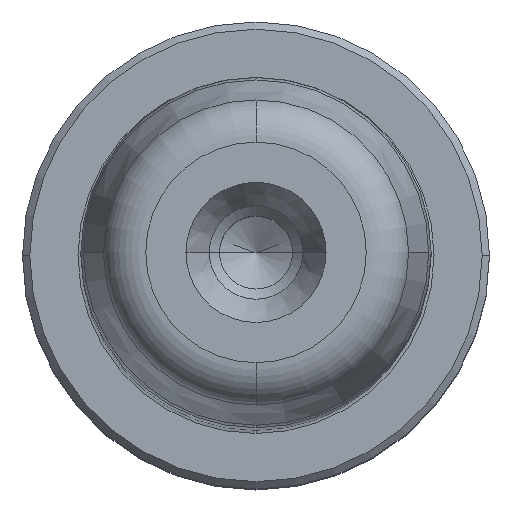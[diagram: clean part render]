
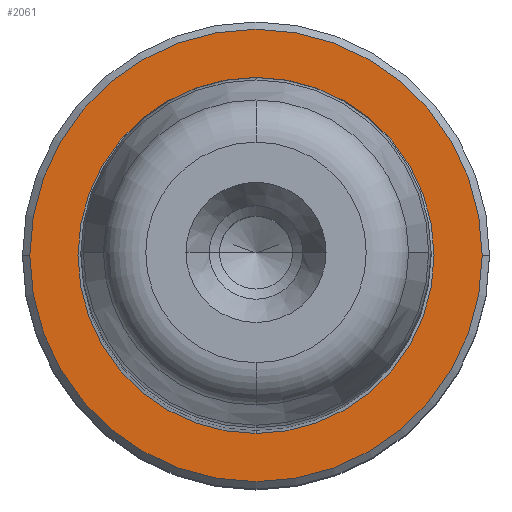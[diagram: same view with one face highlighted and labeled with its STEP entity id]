
A CAD part, top view. The second image highlights one B-rep face of the part: STEP entity #2061.
In plain terms, the highlighted planar face has unit normal (0, 0, 1).
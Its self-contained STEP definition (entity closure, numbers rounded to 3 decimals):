
#898=CARTESIAN_POINT('',(0.0,-12.2,5.));
#899=VERTEX_POINT('',#898);
#907=CARTESIAN_POINT('',(12.2,0.,5.0));
#908=VERTEX_POINT('',#907);
#909=CARTESIAN_POINT('',(0.0,0.,5.0));
#910=DIRECTION('',(0.0,0.0,1.0));
#911=DIRECTION('',(1.0,0.0,0.0));
#912=AXIS2_PLACEMENT_3D('',#909,#910,#911);
#913=CIRCLE('',#912,12.2);
#914=EDGE_CURVE('',#899,#908,#913,.T.);
#916=CARTESIAN_POINT('',(0.,12.2,5.));
#917=VERTEX_POINT('',#916);
#918=CARTESIAN_POINT('',(0.0,0.,5.0));
#919=DIRECTION('',(0.0,0.0,1.0));
#920=DIRECTION('',(1.0,0.0,0.0));
#921=AXIS2_PLACEMENT_3D('',#918,#919,#920);
#922=CIRCLE('',#921,12.2);
#923=EDGE_CURVE('',#908,#917,#922,.T.);
#950=CARTESIAN_POINT('',(15.5,0.,5.0));
#951=VERTEX_POINT('',#950);
#960=CARTESIAN_POINT('',(-15.5,0.,5.));
#961=VERTEX_POINT('',#960);
#962=CARTESIAN_POINT('',(0.0,0.,5.0));
#963=DIRECTION('',(0.0,0.0,1.0));
#964=DIRECTION('',(1.0,0.0,0.0));
#965=AXIS2_PLACEMENT_3D('',#962,#963,#964);
#966=CIRCLE('',#965,15.5);
#967=EDGE_CURVE('',#961,#951,#966,.T.);
#2031=CARTESIAN_POINT('',(0.0,0.,5.0));
#2032=DIRECTION('',(0.0,0.0,1.0));
#2033=DIRECTION('',(1.0,0.0,0.0));
#2034=AXIS2_PLACEMENT_3D('',#2031,#2032,#2033);
#2035=CIRCLE('',#2034,15.5);
#2036=EDGE_CURVE('',#951,#961,#2035,.T.);
#2041=CARTESIAN_POINT('',(13.85,0.,5.0));
#2042=DIRECTION('',(0.0,0.0,1.0));
#2043=DIRECTION('',(0.0,-1.0,0.0));
#2044=AXIS2_PLACEMENT_3D('',#2041,#2042,#2043);
#2045=PLANE('',#2044);
#2046=ORIENTED_EDGE('',*,*,#2036,.T.);
#2047=ORIENTED_EDGE('',*,*,#967,.T.);
#2048=EDGE_LOOP('',(#2046,#2047));
#2049=FACE_OUTER_BOUND('',#2048,.T.);
#2050=ORIENTED_EDGE('',*,*,#923,.F.);
#2051=ORIENTED_EDGE('',*,*,#914,.F.);
#2052=CARTESIAN_POINT('',(0.0,0.,5.0));
#2053=DIRECTION('',(0.0,0.0,1.0));
#2054=DIRECTION('',(1.0,0.0,0.0));
#2055=AXIS2_PLACEMENT_3D('',#2052,#2053,#2054);
#2056=CIRCLE('',#2055,12.2);
#2057=EDGE_CURVE('',#917,#899,#2056,.T.);
#2058=ORIENTED_EDGE('',*,*,#2057,.F.);
#2059=EDGE_LOOP('',(#2050,#2051,#2058));
#2060=FACE_BOUND('',#2059,.T.);
#2061=ADVANCED_FACE('',(#2049,#2060),#2045,.T.);
